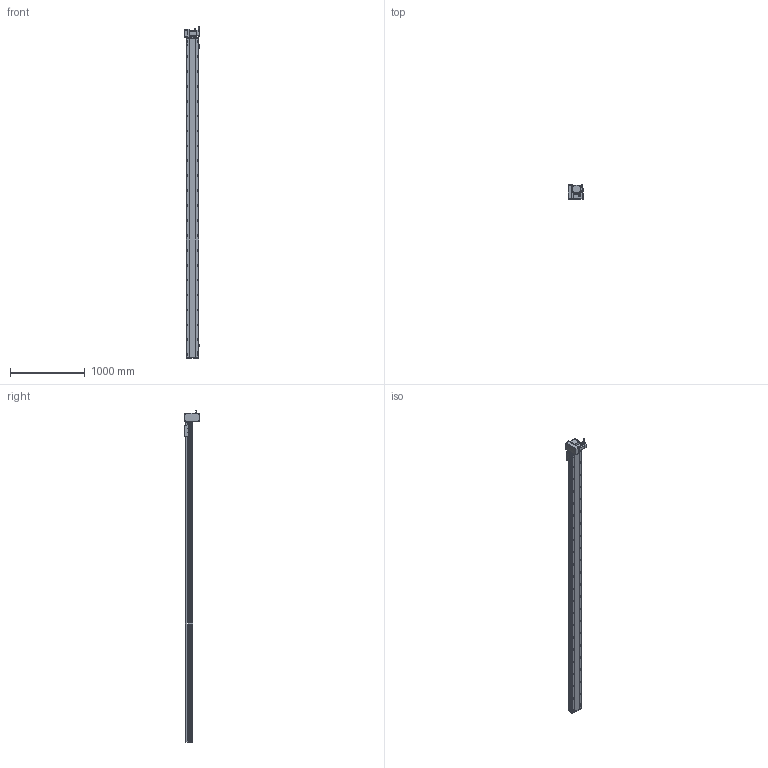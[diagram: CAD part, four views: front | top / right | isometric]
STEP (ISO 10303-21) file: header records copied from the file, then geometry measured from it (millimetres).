
FILE_DESCRIPTION (( 'STEP AP214' ), '1' );
FILE_NAME ('RTB17S-XX-4000-LM-M75-C4.STEP', '2025-12-12T00:55:37', ( '' ), ( '' ), 'SwSTEP 2.0', 'SolidWorks 2018', '' );
FILE_SCHEMA (( 'AUTOMOTIVE_DESIGN' ));
Length unit declared in the file: millimetre
Products named in the file (15): RTB22S-GY-008-M75--萇儂啣^RTB17S-LM-々湍釱蚾饜-750W_RTB17S-XX-XX-LM-M75-C4; RTB17S-XX-4000-LM-M75-C4; RTB17S-L-007奻裔^RTB17S-XX-XX-LM-M75-C4; RTB22S-GY-017P^RTB17S-LM-々湍釱蚾饜-750W_RTB17S-XX-XX-LM-M75-C4; RTB17-R-011菁釱^RTB17S-XX-XX-LM-M75-C4; RTB17S-L-014-T20-P75--々湍釱^RTB17S-LM-々湍釱蚾饜-750W_RTB17S-XX-XX-LM-M75-C4; RTB17S-L-001-耜醱啣^RTB17S-XX-XX-LM-M75-C4; RTB17S-L-004-賑釱^RTB17S-賑釱_RTB17S-XX-XX-LM-M75-C4; RTB17S-賑釱^RTB17S-XX-XX-LM-M75-C4; RTH13-BL-012覜茼え俋离^RTB17S-賑釱_RTB17S-XX-XX-LM-M75-C4; RTB22S-GY-005P^RTB17S-LM-々湍釱蚾饜-750W_RTB17S-XX-XX-LM-M75-C4; RTB17S-LM-々湍釱蚾饜-750W^RTB17S-XX-XX-LM-M75-C4; EE672^RTB17S-XX-XX-LM-M75-C4; RTB22S-GY-018P^RTB17S-LM-々湍釱蚾饜-750W_RTB17S-XX-XX-LM-M75-C4; 750W萇儂^RTB17S-XX-XX-LM-M75-C4
Assembly tree (17 placements, depth 3):
  RTB17S-XX-4000-LM-M75-C4
    RTB17-R-011菁釱^RTB17S-XX-XX-LM-M75-C4
    EE672^RTB17S-XX-XX-LM-M75-C4  x3
    RTB17S-L-001-耜醱啣^RTB17S-XX-XX-LM-M75-C4
    RTB17S-賑釱^RTB17S-XX-XX-LM-M75-C4
      RTB17S-L-004-賑釱^RTB17S-賑釱_RTB17S-XX-XX-LM-M75-C4
      RTH13-BL-012覜茼え俋离^RTB17S-賑釱_RTB17S-XX-XX-LM-M75-C4
    RTB17S-L-007奻裔^RTB17S-XX-XX-LM-M75-C4
    750W萇儂^RTB17S-XX-XX-LM-M75-C4
    RTB17S-LM-々湍釱蚾饜-750W^RTB17S-XX-XX-LM-M75-C4
      RTB17S-L-014-T20-P75--々湍釱^RTB17S-LM-々湍釱蚾饜-750W_RTB17S-XX-XX-LM-M75-C4
      RTB22S-GY-005P^RTB17S-LM-々湍釱蚾饜-750W_RTB17S-XX-XX-LM-M75-C4
      RTB22S-GY-017P^RTB17S-LM-々湍釱蚾饜-750W_RTB17S-XX-XX-LM-M75-C4  x2
      RTB22S-GY-008-M75--萇儂啣^RTB17S-LM-々湍釱蚾饜-750W_RTB17S-XX-XX-LM-M75-C4
      RTB22S-GY-018P^RTB17S-LM-々湍釱蚾饜-750W_RTB17S-XX-XX-LM-M75-C4
Bounding box: 210.4 x 200 x 4452.2 mm (x, y, z)
Volume: 30957236.7 mm3; surface area: 5755007.4 mm2
Topology: 17 solids, 17 shells, 2329 faces, 6592 edges, 4274 vertices
Faces by surface type: plane 1000, cylinder 913, bspline 294, cone 110, sphere 8, torus 4
Entity records: 69622 total; most frequent: CARTESIAN_POINT 20856, ORIENTED_EDGE 10028, DIRECTION 9212, EDGE_CURVE 5014, AXIS2_PLACEMENT_3D 3294, VERTEX_POINT 3278, VECTOR 2624, LINE 2624
